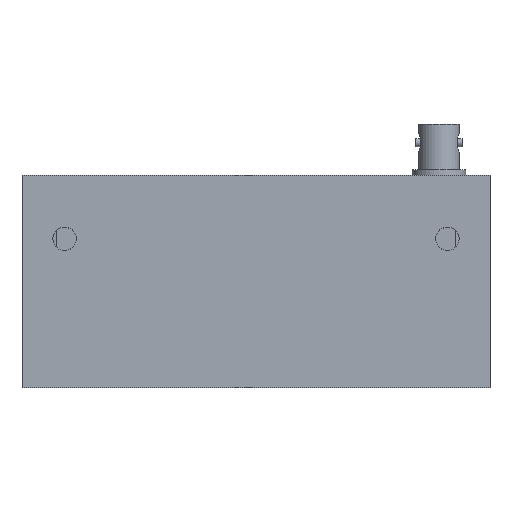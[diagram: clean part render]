
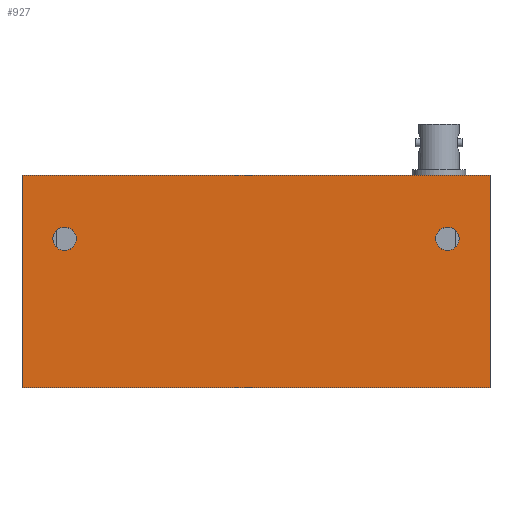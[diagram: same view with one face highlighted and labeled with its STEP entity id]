
A CAD part, front view. The second image highlights one B-rep face of the part: STEP entity #927.
In plain terms, the highlighted planar face has unit normal (0, -1, 0).
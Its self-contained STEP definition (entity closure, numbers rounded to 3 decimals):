
#500=CARTESIAN_POINT('',(55.0,-20.0,0.0));
#501=VERTEX_POINT('',#500);
#508=CARTESIAN_POINT('',(55.0,-20.0,-50.0));
#509=VERTEX_POINT('',#508);
#510=CARTESIAN_POINT('',(55.0,-20.0,0.0));
#511=DIRECTION('',(0.0,0.0,-1.0));
#512=VECTOR('',#511,50.0);
#513=LINE('',#510,#512);
#514=EDGE_CURVE('',#501,#509,#513,.T.);
#632=CARTESIAN_POINT('',(-55.0,-20.0,-50.0));
#633=VERTEX_POINT('',#632);
#634=CARTESIAN_POINT('',(-55.0,-20.0,-50.0));
#635=DIRECTION('',(1.0,0.0,0.0));
#636=VECTOR('',#635,110.0);
#637=LINE('',#634,#636);
#638=EDGE_CURVE('',#633,#509,#637,.T.);
#670=CARTESIAN_POINT('',(-55.0,-20.0,0.0));
#671=VERTEX_POINT('',#670);
#672=CARTESIAN_POINT('',(-55.0,-20.0,0.0));
#673=DIRECTION('',(0.0,0.0,-1.0));
#674=VECTOR('',#673,50.0);
#675=LINE('',#672,#674);
#676=EDGE_CURVE('',#671,#633,#675,.T.);
#855=CARTESIAN_POINT('',(47.75,-20.0,-15.0));
#856=VERTEX_POINT('',#855);
#857=CARTESIAN_POINT('',(45.0,-20.0,-15.0));
#858=DIRECTION('',(0.0,1.0,0.0));
#859=DIRECTION('',(1.0,0.0,0.0));
#860=AXIS2_PLACEMENT_3D('',#857,#858,#859);
#861=CIRCLE('',#860,2.75);
#862=EDGE_CURVE('',#856,#856,#861,.T.);
#876=CARTESIAN_POINT('',(-42.25,-20.0,-15.0));
#877=VERTEX_POINT('',#876);
#878=CARTESIAN_POINT('',(-45.0,-20.0,-15.0));
#879=DIRECTION('',(0.0,1.0,0.0));
#880=DIRECTION('',(1.0,0.0,0.0));
#881=AXIS2_PLACEMENT_3D('',#878,#879,#880);
#882=CIRCLE('',#881,2.75);
#883=EDGE_CURVE('',#877,#877,#882,.T.);
#905=CARTESIAN_POINT('',(-55.0,-20.0,0.0));
#906=DIRECTION('',(0.0,-1.0,0.0));
#907=DIRECTION('',(0.0,0.0,-1.0));
#908=AXIS2_PLACEMENT_3D('',#905,#906,#907);
#909=PLANE('',#908);
#910=ORIENTED_EDGE('',*,*,#638,.T.);
#911=ORIENTED_EDGE('',*,*,#514,.F.);
#912=CARTESIAN_POINT('',(55.0,-20.0,0.0));
#913=DIRECTION('',(-1.0,0.0,0.0));
#914=VECTOR('',#913,110.0);
#915=LINE('',#912,#914);
#916=EDGE_CURVE('',#501,#671,#915,.T.);
#917=ORIENTED_EDGE('',*,*,#916,.T.);
#918=ORIENTED_EDGE('',*,*,#676,.T.);
#919=EDGE_LOOP('',(#910,#911,#917,#918));
#920=FACE_OUTER_BOUND('',#919,.T.);
#921=ORIENTED_EDGE('',*,*,#862,.T.);
#922=EDGE_LOOP('',(#921));
#923=FACE_BOUND('',#922,.T.);
#924=ORIENTED_EDGE('',*,*,#883,.T.);
#925=EDGE_LOOP('',(#924));
#926=FACE_BOUND('',#925,.T.);
#927=ADVANCED_FACE('',(#920,#923,#926),#909,.T.);
